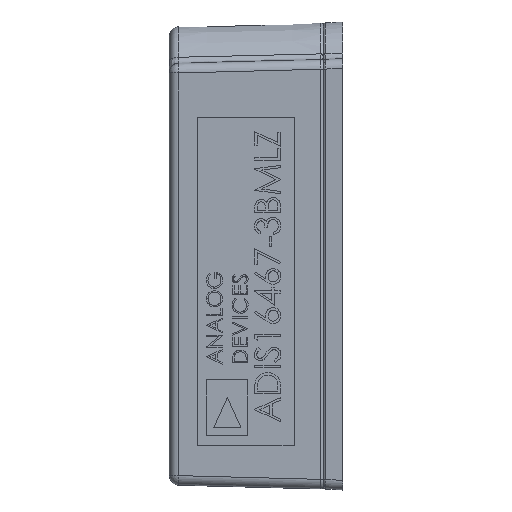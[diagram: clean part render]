
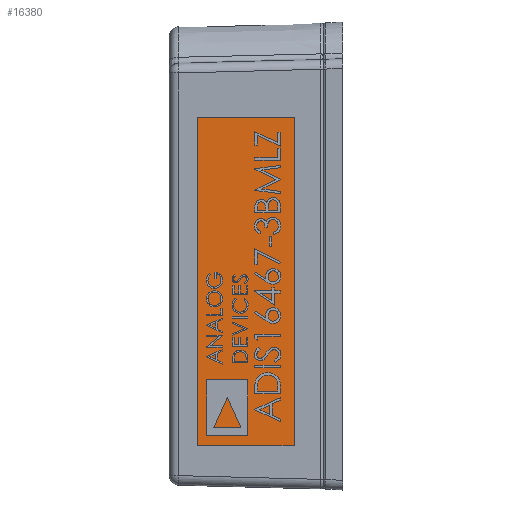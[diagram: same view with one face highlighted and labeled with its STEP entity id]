
A CAD part, left-side view. The second image highlights one B-rep face of the part: STEP entity #16380.
In plain terms, the highlighted planar face has unit normal (-1, 0.026, 0) as drawn and (1, -0.026, 0) by its records, which use the part's own axes.
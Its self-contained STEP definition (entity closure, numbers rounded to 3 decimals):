
#1345 = CARTESIAN_POINT ( 'NONE',  ( 11.079, 1.459, -9.206 ) ) ;
#3677 = LINE ( 'NONE', #64493, #28397 ) ;
#5564 = DIRECTION ( 'NONE',  ( 1., -0.026, 0. ) ) ;
#5663 = DIRECTION ( 'NONE',  ( 0., 0., 1. ) ) ;
#11846 = VECTOR ( 'NONE', #5663, 1000. ) ;
#12370 = EDGE_CURVE ( 'NONE', #62529, #58330, #35775, .T. ) ;
#13363 = ORIENTED_EDGE ( 'NONE', *, *, #56588, .T. ) ;
#14224 = EDGE_CURVE ( 'NONE', #53709, #59868, #3677, .T. ) ;
#15913 = CARTESIAN_POINT ( 'NONE',  ( 11.079, 1.459, -9.206 ) ) ;
#16380 = ADVANCED_FACE ( 'NONE', ( #63399 ), #60611, .T. ) ;
#17023 = CARTESIAN_POINT ( 'NONE',  ( 11.033, -0.289, 0. ) ) ;
#23121 = DIRECTION ( 'NONE',  ( 0.026, 1., 0. ) ) ;
#28397 = VECTOR ( 'NONE', #58052, 1000. ) ;
#33244 = DIRECTION ( 'NONE',  ( 0., 0., -1. ) ) ;
#34681 = AXIS2_PLACEMENT_3D ( 'NONE', #17023, #5564, #23121 ) ;
#34807 = VECTOR ( 'NONE', #56131, 1000. ) ;
#35775 = LINE ( 'NONE', #68170, #34807 ) ;
#36810 = CARTESIAN_POINT ( 'NONE',  ( 11.21, 6.477, 7.841 ) ) ;
#40508 = ORIENTED_EDGE ( 'NONE', *, *, #12370, .T. ) ;
#43575 = VECTOR ( 'NONE', #33244, 1000. ) ;
#46963 = EDGE_CURVE ( 'NONE', #58330, #53709, #78063, .T. ) ;
#48104 = CARTESIAN_POINT ( 'NONE',  ( 11.21, 6.477, -9.206 ) ) ;
#53709 = VERTEX_POINT ( 'NONE', #1345 ) ;
#55694 = ORIENTED_EDGE ( 'NONE', *, *, #14224, .T. ) ;
#56131 = DIRECTION ( 'NONE',  ( -0.026, -1., 0. ) ) ;
#56273 = CARTESIAN_POINT ( 'NONE',  ( 11.079, 1.459, 7.841 ) ) ;
#56588 = EDGE_CURVE ( 'NONE', #59868, #62529, #68255, .T. ) ;
#58052 = DIRECTION ( 'NONE',  ( 0.026, 1., 0. ) ) ;
#58330 = VERTEX_POINT ( 'NONE', #56273 ) ;
#59868 = VERTEX_POINT ( 'NONE', #78768 ) ;
#60611 = PLANE ( 'NONE',  #34681 ) ;
#62529 = VERTEX_POINT ( 'NONE', #36810 ) ;
#63399 = FACE_OUTER_BOUND ( 'NONE', #70836, .T. ) ;
#63554 = ORIENTED_EDGE ( 'NONE', *, *, #46963, .T. ) ;
#64493 = CARTESIAN_POINT ( 'NONE',  ( 11.079, 1.459, -9.206 ) ) ;
#68170 = CARTESIAN_POINT ( 'NONE',  ( 11.079, 1.459, 7.841 ) ) ;
#68255 = LINE ( 'NONE', #48104, #11846 ) ;
#70836 = EDGE_LOOP ( 'NONE', ( #55694, #13363, #40508, #63554 ) ) ;
#78063 = LINE ( 'NONE', #15913, #43575 ) ;
#78768 = CARTESIAN_POINT ( 'NONE',  ( 11.21, 6.477, -9.206 ) ) ;
